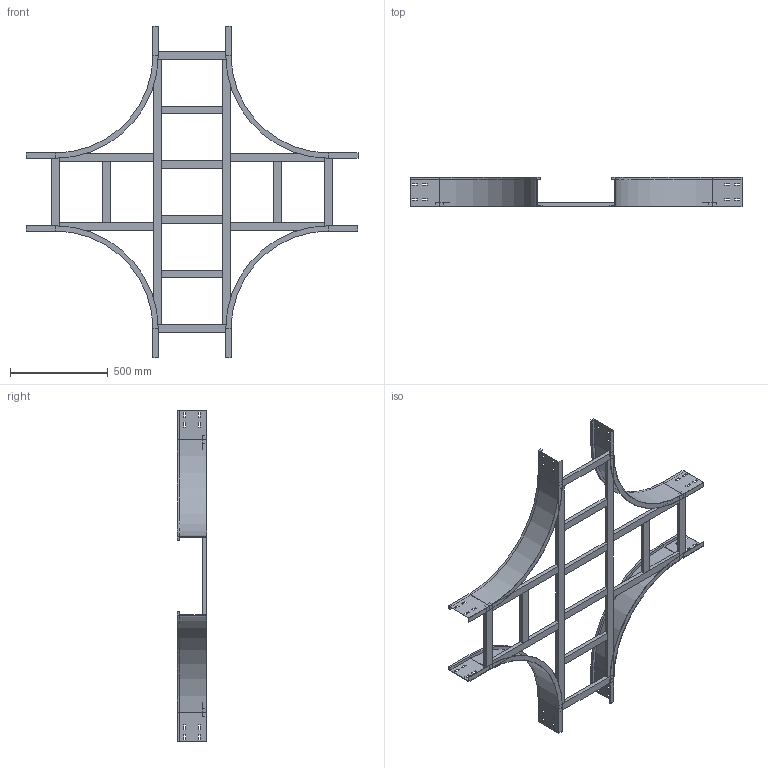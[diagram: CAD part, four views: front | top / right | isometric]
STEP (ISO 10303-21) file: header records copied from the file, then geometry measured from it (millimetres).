
FILE_DESCRIPTION (( 'STEP AP214' ), '1' );
FILE_NAME ('17J5F400.step', '2025-02-21T16:28:41', ( '' ), ( '' ), 'SwSTEP 2.0', 'SolidWorks 2023', '' );
FILE_SCHEMA (( 'AUTOMOTIVE_DESIGN' ));
Length unit declared in the file: millimetre
Products named in the file (7): TRAVERSINO_400; TRAVERSINO_COPPIA_400; TRAVERSINO_VERT_R500; LONGH.INTERNO 90°_H150_R500; TRAVERSINO_LONG._R500+400; 17J5F400; TRAVERSINO_INTERMEDIO_X_R500+400
Assembly tree (20 placements, depth 2):
  17J5F400
    LONGH.INTERNO 90°_H150_R500  x4
    TRAVERSINO_400  x4
    TRAVERSINO_LONG._R500+400  x2
    TRAVERSINO_INTERMEDIO_X_R500+400  x4
    TRAVERSINO_VERT_R500  x4
    TRAVERSINO_COPPIA_400  x2
Bounding box: 1700 x 150 x 1700 mm (x, y, z)
Volume: 8934447.2 mm3; surface area: 2688579.3 mm2
Topology: 20 solids, 20 shells, 328 faces, 800 edges, 512 vertices
Faces by surface type: plane 312, cylinder 16
Entity records: 2860 total; most frequent: CARTESIAN_POINT 459, DIRECTION 442, ORIENTED_EDGE 424, EDGE_CURVE 212, LINE 204, VECTOR 204, VERTEX_POINT 136, AXIS2_PLACEMENT_3D 119
